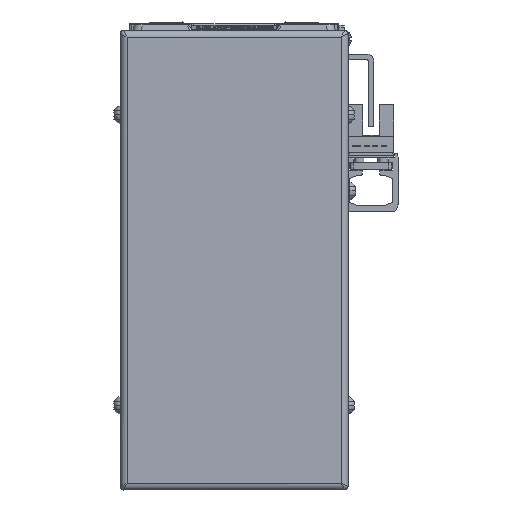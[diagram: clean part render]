
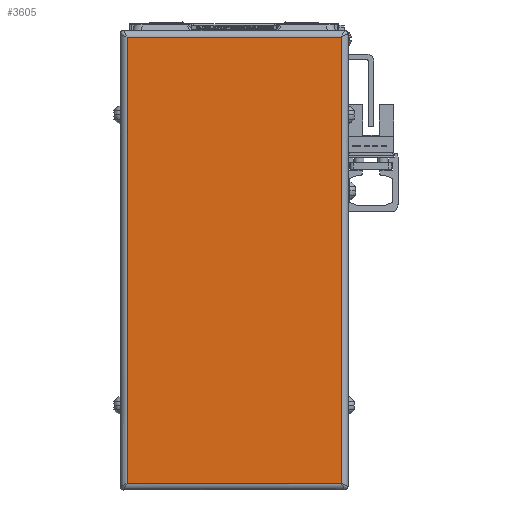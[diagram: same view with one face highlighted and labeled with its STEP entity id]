
A CAD part, left-side view. The second image highlights one B-rep face of the part: STEP entity #3605.
In plain terms, the highlighted planar face has unit normal (-1, 0, 0) as drawn and (0, 0, 1) by its records, which use the part's own axes.
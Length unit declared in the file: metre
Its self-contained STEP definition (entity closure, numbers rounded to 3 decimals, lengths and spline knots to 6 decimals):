
#3605=ADVANCED_FACE('',(#8171),#8172,.T.);
#8171=FACE_OUTER_BOUND('',#16866,.T.);
#8172=PLANE('',#16867);
#16866=EDGE_LOOP('',(#25814,#25815,#25816,#25817));
#16867=AXIS2_PLACEMENT_3D('',#25818,#25819,#25820);
#25814=ORIENTED_EDGE('',*,*,#42233,.F.);
#25815=ORIENTED_EDGE('',*,*,#42234,.F.);
#25816=ORIENTED_EDGE('',*,*,#42235,.F.);
#25817=ORIENTED_EDGE('',*,*,#42236,.F.);
#25818=CARTESIAN_POINT('',(-0.054,-0.014256,0.033889));
#25819=DIRECTION('',(0.0,0.0,1.0));
#25820=DIRECTION('',(1.0,0.0,0.0));
#42233=EDGE_CURVE('',#48190,#49556,#49557,.T.);
#42234=EDGE_CURVE('',#49558,#48190,#49559,.T.);
#42235=EDGE_CURVE('',#49560,#49558,#49561,.T.);
#42236=EDGE_CURVE('',#49556,#49560,#49562,.T.);
#48190=VERTEX_POINT('',#58179);
#49556=VERTEX_POINT('',#60199);
#49557=LINE('',#60200,#60201);
#49558=VERTEX_POINT('',#60202);
#49559=LINE('',#60203,#60204);
#49560=VERTEX_POINT('',#60205);
#49561=LINE('',#60206,#60207);
#49562=LINE('',#60208,#60209);
#58179=CARTESIAN_POINT('',(0.012,0.017444,0.033889));
#60199=CARTESIAN_POINT('',(0.012,-0.045956,0.033889));
#60200=CARTESIAN_POINT('',(0.012,-0.014256,0.033889));
#60201=VECTOR('',#73187,1.0);
#60202=CARTESIAN_POINT('',(-0.12,0.017444,0.033889));
#60203=CARTESIAN_POINT('',(-0.054,0.017444,0.033889));
#60204=VECTOR('',#73188,1.0);
#60205=CARTESIAN_POINT('',(-0.12,-0.045956,0.033889));
#60206=CARTESIAN_POINT('',(-0.12,-0.014256,0.033889));
#60207=VECTOR('',#73189,1.0);
#60208=CARTESIAN_POINT('',(-0.054,-0.045956,0.033889));
#60209=VECTOR('',#73190,1.0);
#73187=DIRECTION('',(0.0,-1.0,0.0));
#73188=DIRECTION('',(1.0,0.0,0.0));
#73189=DIRECTION('',(0.0,1.0,0.0));
#73190=DIRECTION('',(-1.0,0.0,0.0));
